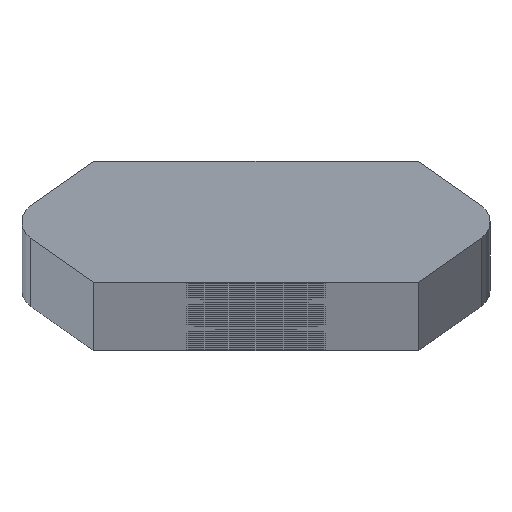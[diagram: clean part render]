
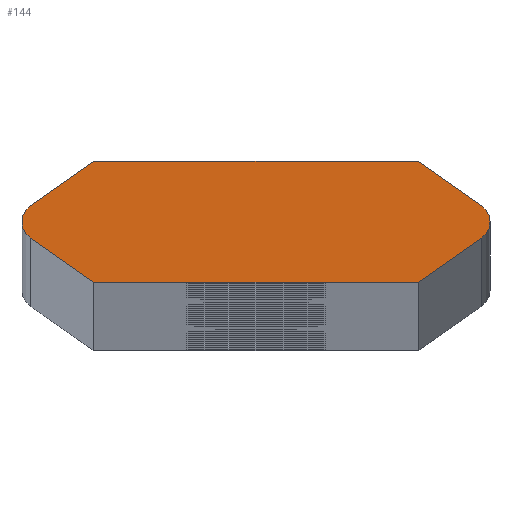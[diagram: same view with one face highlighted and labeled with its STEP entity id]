
A CAD part, top view. The second image highlights one B-rep face of the part: STEP entity #144.
In plain terms, the highlighted planar face has unit normal (0, 0, 1).
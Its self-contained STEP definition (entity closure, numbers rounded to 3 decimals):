
#144=ADVANCED_FACE('',(#292),#293,.T.);
#292=FACE_OUTER_BOUND('',#514,.T.);
#293=PLANE('',#515);
#514=EDGE_LOOP('',(#1081,#1082,#1083,#1084,#1085,#1086,#1087,#1088,#1089,#1090));
#515=AXIS2_PLACEMENT_3D('',#1091,#1092,#1093);
#1081=ORIENTED_EDGE('',*,*,#1293,.T.);
#1082=ORIENTED_EDGE('',*,*,#1496,.T.);
#1083=ORIENTED_EDGE('',*,*,#1497,.F.);
#1084=ORIENTED_EDGE('',*,*,#1498,.F.);
#1085=ORIENTED_EDGE('',*,*,#1499,.F.);
#1086=ORIENTED_EDGE('',*,*,#1289,.T.);
#1087=ORIENTED_EDGE('',*,*,#1500,.T.);
#1088=ORIENTED_EDGE('',*,*,#1501,.F.);
#1089=ORIENTED_EDGE('',*,*,#1502,.F.);
#1090=ORIENTED_EDGE('',*,*,#1503,.F.);
#1091=CARTESIAN_POINT('',(0.0,0.,986.0));
#1092=DIRECTION('',(0.0,0.0,1.0));
#1093=DIRECTION('',(1.0,0.0,0.0));
#1289=EDGE_CURVE('',#1519,#1516,#1520,.T.);
#1293=EDGE_CURVE('',#1527,#1524,#1528,.T.);
#1496=EDGE_CURVE('',#1524,#1864,#1866,.T.);
#1497=EDGE_CURVE('',#1867,#1864,#1868,.T.);
#1498=EDGE_CURVE('',#1869,#1867,#1870,.T.);
#1499=EDGE_CURVE('',#1519,#1869,#1871,.T.);
#1500=EDGE_CURVE('',#1516,#1872,#1873,.T.);
#1501=EDGE_CURVE('',#1874,#1872,#1875,.T.);
#1502=EDGE_CURVE('',#1876,#1874,#1877,.T.);
#1503=EDGE_CURVE('',#1527,#1876,#1878,.T.);
#1516=VERTEX_POINT('',#1896);
#1519=VERTEX_POINT('',#1900);
#1520=CIRCLE('',#1901,0.5);
#1524=VERTEX_POINT('',#1906);
#1527=VERTEX_POINT('',#1910);
#1528=CIRCLE('',#1911,0.5);
#1864=VERTEX_POINT('',#2314);
#1866=CIRCLE('',#2317,0.5);
#1867=VERTEX_POINT('',#2318);
#1868=LINE('',#2319,#2320);
#1869=VERTEX_POINT('',#2321);
#1870=LINE('',#2322,#2323);
#1871=LINE('',#2324,#2325);
#1872=VERTEX_POINT('',#2326);
#1873=CIRCLE('',#2327,0.5);
#1874=VERTEX_POINT('',#2328);
#1875=LINE('',#2329,#2330);
#1876=VERTEX_POINT('',#2331);
#1877=LINE('',#2332,#2333);
#1878=LINE('',#2334,#2335);
#1896=CARTESIAN_POINT('',(5.903,0.,986.0));
#1900=CARTESIAN_POINT('',(5.693,-0.407,986.0));
#1901=AXIS2_PLACEMENT_3D('',#2365,#2366,#2367);
#1906=CARTESIAN_POINT('',(-5.903,0.,986.0));
#1910=CARTESIAN_POINT('',(-5.693,0.407,986.0));
#1911=AXIS2_PLACEMENT_3D('',#2373,#2374,#2375);
#2314=CARTESIAN_POINT('',(-5.693,-0.407,986.0));
#2317=AXIS2_PLACEMENT_3D('',#2846,#2847,#2848);
#2318=CARTESIAN_POINT('',(-4.097,-1.525,986.0));
#2319=CARTESIAN_POINT('',(-6.275,0.,986.0));
#2320=VECTOR('',#2849,1.0);
#2321=CARTESIAN_POINT('',(4.097,-1.525,986.0));
#2322=CARTESIAN_POINT('',(4.097,-1.525,986.0));
#2323=VECTOR('',#2850,1.0);
#2324=CARTESIAN_POINT('',(6.275,0.0,986.0));
#2325=VECTOR('',#2851,1.0);
#2326=CARTESIAN_POINT('',(5.693,0.407,986.0));
#2327=AXIS2_PLACEMENT_3D('',#2852,#2853,#2854);
#2328=CARTESIAN_POINT('',(4.097,1.525,986.0));
#2329=CARTESIAN_POINT('',(6.275,0.0,986.0));
#2330=VECTOR('',#2855,1.0);
#2331=CARTESIAN_POINT('',(-4.097,1.525,986.0));
#2332=CARTESIAN_POINT('',(-4.097,1.525,986.0));
#2333=VECTOR('',#2856,1.0);
#2334=CARTESIAN_POINT('',(-6.275,0.,986.0));
#2335=VECTOR('',#2857,1.0);
#2365=CARTESIAN_POINT('',(5.403,0.0,986.0));
#2366=DIRECTION('',(0.0,0.0,1.0));
#2367=DIRECTION('',(1.0,0.0,0.0));
#2373=CARTESIAN_POINT('',(-5.403,0.,986.0));
#2374=DIRECTION('',(0.0,0.0,1.0));
#2375=DIRECTION('',(-1.0,0.,0.0));
#2846=CARTESIAN_POINT('',(-5.403,0.,986.0));
#2847=DIRECTION('',(0.0,0.0,1.0));
#2848=DIRECTION('',(-1.0,0.,0.0));
#2849=DIRECTION('',(-0.819,0.574,0.0));
#2850=DIRECTION('',(-1.0,0.,0.0));
#2851=DIRECTION('',(-0.819,-0.574,0.0));
#2852=CARTESIAN_POINT('',(5.403,0.0,986.0));
#2853=DIRECTION('',(0.0,0.0,1.0));
#2854=DIRECTION('',(1.0,0.0,0.0));
#2855=DIRECTION('',(0.819,-0.574,0.0));
#2856=DIRECTION('',(1.0,0.,0.0));
#2857=DIRECTION('',(0.819,0.574,0.0));
